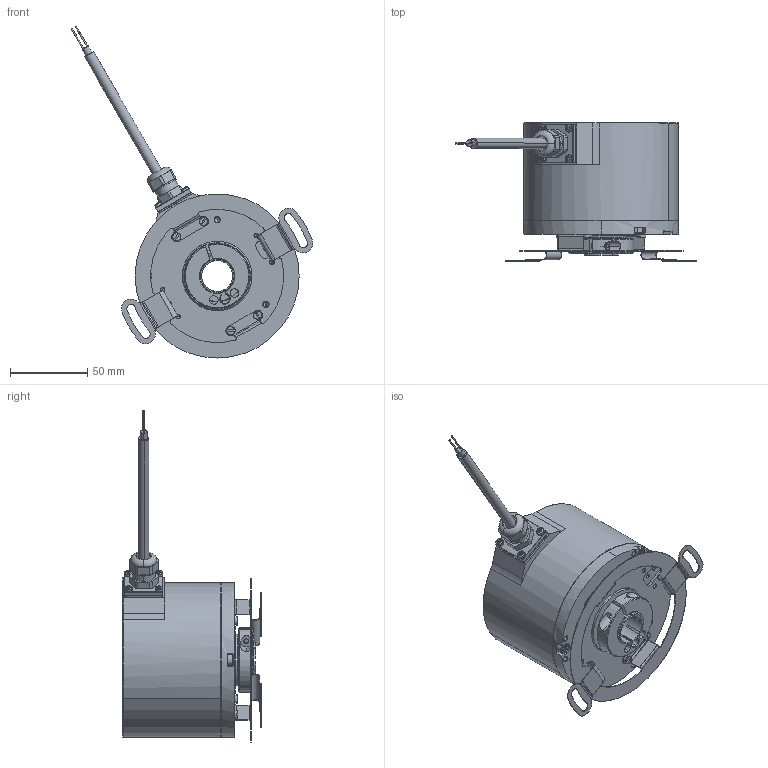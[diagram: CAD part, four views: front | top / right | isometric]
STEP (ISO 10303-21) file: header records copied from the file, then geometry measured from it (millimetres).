
FILE_DESCRIPTION (( 'STEP AP203' ), '1' );
FILE_NAME ('8.H120.53X1.XXXX.STEP', '2013-03-28T15:11:34', ( 'Hodot' ), ( '' ), 'SwSTEP 2.0', 'SolidWorks 2012', '' );
FILE_SCHEMA (( 'CONFIG_CONTROL_DESIGN' ));
Length unit declared in the file: millimetre
Products named in the file (1): 8.H120.53X1.XXXX
Bounding box: 156.24 x 89.5 x 214.6 mm (x, y, z)
Volume: 280168.5 mm3; surface area: 141055 mm2
Topology: 27 solids, 27 shells, 1124 faces, 2711 edges, 1664 vertices
Faces by surface type: cylinder 480, plane 323, cone 249, torus 64, sphere 8
Entity records: 33115 total; most frequent: DIRECTION 6155, CARTESIAN_POINT 6053, ORIENTED_EDGE 5306, EDGE_CURVE 2653, AXIS2_PLACEMENT_3D 2471, VERTEX_POINT 1664, CIRCLE 1346, EDGE_LOOP 1287
